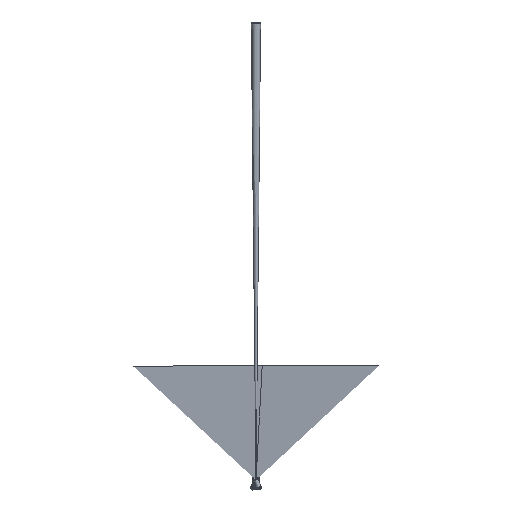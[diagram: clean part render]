
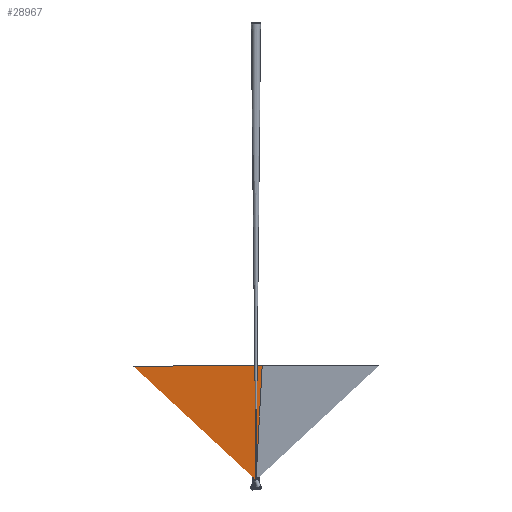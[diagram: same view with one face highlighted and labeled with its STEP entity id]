
A CAD part, front view. The second image highlights one B-rep face of the part: STEP entity #28967.
In plain terms, the highlighted planar face has unit normal (0.036, -0.995, -0.089) as drawn and (0, 1, 0) by its records, which use the part's own axes.
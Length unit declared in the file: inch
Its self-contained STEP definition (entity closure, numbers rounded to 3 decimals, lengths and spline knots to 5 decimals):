
#4833 = CARTESIAN_POINT ( 'NONE',  ( 0., 0.00005, 0. ) ) ;
#7580 = VECTOR ( 'NONE', #22624, 39.37008 ) ;
#7758 = ORIENTED_EDGE ( 'NONE', *, *, #35647, .T. ) ;
#9708 = DIRECTION ( 'NONE',  ( -0.927, 0., -0.375 ) ) ;
#12111 = PLANE ( 'NONE',  #41181 ) ;
#15451 = CARTESIAN_POINT ( 'NONE',  ( 146.86855, 0.00005, -314.96063 ) ) ;
#16692 = EDGE_CURVE ( 'NONE', #69423, #52216, #51424, .T. ) ;
#20113 = FACE_OUTER_BOUND ( 'NONE', #38721, .T. ) ;
#20142 = CARTESIAN_POINT ( 'NONE',  ( 83.30674, 0.00005, -178.65188 ) ) ;
#22624 = DIRECTION ( 'NONE',  ( 0.423, 0., -0.906 ) ) ;
#26493 = VECTOR ( 'NONE', #90466, 39.37008 ) ;
#26601 = LINE ( 'NONE', #15451, #7580 ) ;
#28279 = CARTESIAN_POINT ( 'NONE',  ( 0., 0.00005, 0. ) ) ;
#28967 = ADVANCED_FACE ( 'NONE', ( #20113 ), #12111, .T. ) ;
#30156 = VECTOR ( 'NONE', #9708, 39.37008 ) ;
#33767 = DIRECTION ( 'NONE',  ( 0., 1., 0. ) ) ;
#35647 = EDGE_CURVE ( 'NONE', #52216, #35791, #64547, .T. ) ;
#35791 = VERTEX_POINT ( 'NONE', #28279 ) ;
#38721 = EDGE_LOOP ( 'NONE', ( #41684, #7758, #54087 ) ) ;
#41181 = AXIS2_PLACEMENT_3D ( 'NONE', #76523, #33767, #83687 ) ;
#41684 = ORIENTED_EDGE ( 'NONE', *, *, #16692, .T. ) ;
#51424 = LINE ( 'NONE', #59788, #30156 ) ;
#52216 = VERTEX_POINT ( 'NONE', #67593 ) ;
#54087 = ORIENTED_EDGE ( 'NONE', *, *, #74638, .T. ) ;
#59788 = CARTESIAN_POINT ( 'NONE',  ( -254.06925, 0.00005, -314.96063 ) ) ;
#64547 = LINE ( 'NONE', #4833, #26493 ) ;
#67593 = CARTESIAN_POINT ( 'NONE',  ( -121.98354, 0.00005, -261.59454 ) ) ;
#69423 = VERTEX_POINT ( 'NONE', #20142 ) ;
#74638 = EDGE_CURVE ( 'NONE', #35791, #69423, #26601, .T. ) ;
#76523 = CARTESIAN_POINT ( 'NONE',  ( 0., 0.00005, 0. ) ) ;
#83687 = DIRECTION ( 'NONE',  ( 0., 0., 1. ) ) ;
#90466 = DIRECTION ( 'NONE',  ( 0.423, 0., 0.906 ) ) ;
